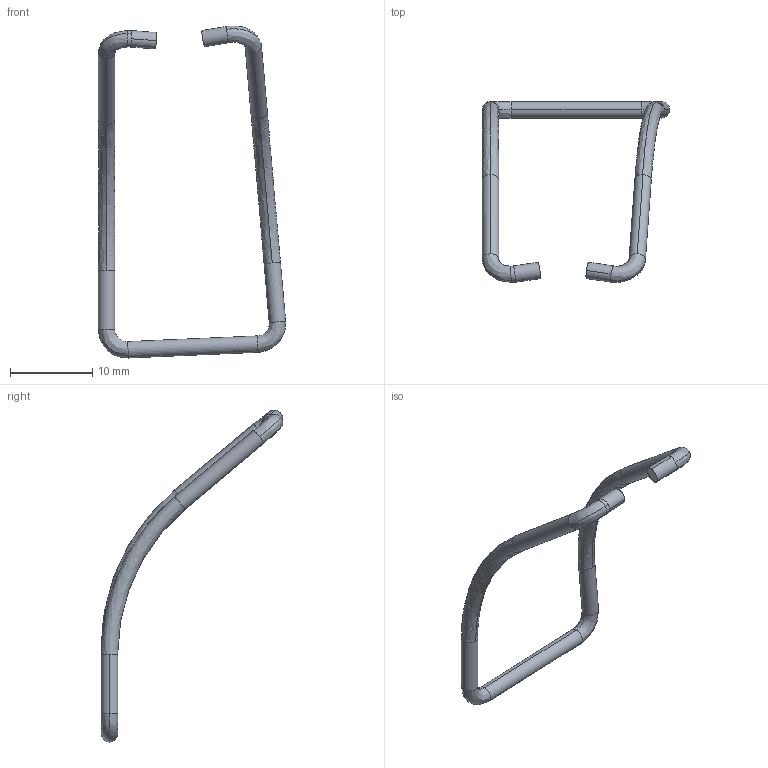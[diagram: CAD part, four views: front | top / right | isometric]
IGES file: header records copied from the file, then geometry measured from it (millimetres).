
Start section: SolidWorks IGES FILE using analytic representation for surfaces
Global section: file name: C:\WINNT\Profiles\cbrechard\Bureau\GE 570\1003.220.00.IGS; native system: SolidWorks 2001Plus by SolidWorks Corporation; preprocessor: Version 5.3; author: CBRECHARD; date: 050125.140220; units: millimetre
Bounding box: 22.77 x 22.07 x 40.38 mm (x, y, z)
Surface area: 760.9 mm2 (no closed solid volume)
Topology: 0 solids, 0 shells, 30 faces, 204 edges, 204 vertices
Faces by surface type: bspline 16, revolution 14
